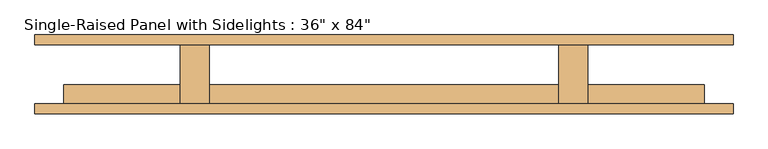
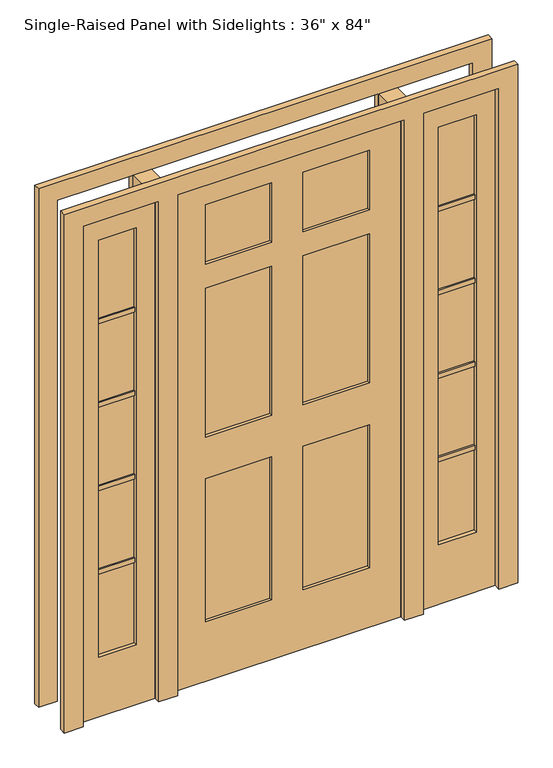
"""IFC4 building model written with IfcOpenShell, lengths in millimetres: door geometry."""

from ifc_helpers import new_model, si_unit, frame, origin, origin_with_axes, place, context, project, spatial, polyline, outline, extrude, source, transform, mapped, element, save


def door_064a4328(model_context):
    return source(origin(), model_context, "Body", "SweptSolid", [
        extrude(outline(polyline([(762.0, -36.5125), (762.0, -68.2625), (609.6, -68.2625), (609.6, -36.5125), (762.0, -36.5125)])), frame((0.0, 0.0, 600.075), z_axis=(0.0, 0.0, 1.0), x_axis=(1.0, 0.0, 0.0)), (0.0, 0.0, 1.0), 19.05),
        extrude(outline(polyline([(762.0, -36.5125), (762.0, -68.2625), (609.6, -68.2625), (609.6, -36.5125), (762.0, -36.5125)])), frame((0.0, 0.0, 955.675), z_axis=(0.0, 0.0, 1.0), x_axis=(1.0, 0.0, 0.0)), (0.0, 0.0, 1.0), 19.05),
        extrude(outline(polyline([(762.0, -36.5125), (762.0, -68.2625), (609.6, -68.2625), (609.6, -36.5125), (762.0, -36.5125)])), frame((0.0, 0.0, 1311.275), z_axis=(0.0, 0.0, 1.0), x_axis=(1.0, 0.0, 0.0)), (0.0, 0.0, 1.0), 19.05),
        extrude(outline(polyline([(762.0, -36.5125), (762.0, -68.2625), (609.6, -68.2625), (609.6, -36.5125), (762.0, -36.5125)])), frame((0.0, 0.0, 1666.875), z_axis=(0.0, 0.0, 1.0), x_axis=(1.0, 0.0, 0.0)), (0.0, 0.0, 1.0), 19.05),
        extrude(outline(polyline([(-609.6, -36.5125), (-609.6, -68.2625), (-762.0, -68.2625), (-762.0, -36.5125), (-609.6, -36.5125)])), frame((0.0, 0.0, 1666.875), z_axis=(0.0, 0.0, 1.0), x_axis=(1.0, 0.0, 0.0)), (0.0, 0.0, 1.0), 19.05),
        extrude(outline(polyline([(-609.6, -36.5125), (-609.6, -68.2625), (-762.0, -68.2625), (-762.0, -36.5125), (-609.6, -36.5125)])), frame((0.0, 0.0, 1311.275), z_axis=(0.0, 0.0, 1.0), x_axis=(1.0, 0.0, 0.0)), (0.0, 0.0, 1.0), 19.05),
        extrude(outline(polyline([(-609.6, -36.5125), (-609.6, -68.2625), (-762.0, -68.2625), (-762.0, -36.5125), (-609.6, -36.5125)])), frame((0.0, 0.0, 955.675), z_axis=(0.0, 0.0, 1.0), x_axis=(1.0, 0.0, 0.0)), (0.0, 0.0, 1.0), 19.05),
        extrude(outline(polyline([(-609.6, -36.5125), (-609.6, -68.2625), (-762.0, -68.2625), (-762.0, -36.5125), (-609.6, -36.5125)])), frame((0.0, 0.0, 600.075), z_axis=(0.0, 0.0, 1.0), x_axis=(1.0, 0.0, 0.0)), (0.0, 0.0, 1.0), 19.05),
        extrude(outline(polyline([(762.0, -42.8625), (762.0, -61.9125), (609.6, -61.9125), (609.6, -42.8625), (762.0, -42.8625)])), frame((0.0, 0.0, 254.0), z_axis=(0.0, 0.0, 1.0), x_axis=(1.0, 0.0, 0.0)), (0.0, 0.0, 1.0), 1778.0),
        extrude(outline(polyline([(-609.6, -42.8625), (-609.6, -61.9125), (-762.0, -61.9125), (-762.0, -42.8625), (-609.6, -42.8625)])), frame((0.0, 0.0, 254.0), z_axis=(0.0, 0.0, 1.0), x_axis=(1.0, 0.0, 0.0)), (0.0, 0.0, 1.0), 1778.0),
        extrude(outline(polyline([(-457.2, 77.7875), (-457.2, -77.7875), (-533.4, -77.7875), (-533.4, 77.7875), (-457.2, 77.7875)])), origin_with_axes(), (0.0, 0.0, 1.0), 2133.6),
        extrude(outline(polyline([(533.4, 77.7875), (533.4, -77.7875), (457.2, -77.7875), (457.2, 77.7875), (533.4, 77.7875)])), origin_with_axes(), (0.0, 0.0, 1.0), 2133.6),
        extrude(outline(polyline([(2133.6, -533.4), (2133.6, -838.2), (0.0, -838.2), (0.0, -533.4), (2133.6, -533.4)]), holes=[polyline([(2032.0, -609.6), (254.0, -609.6), (254.0, -762.0), (2032.0, -762.0), (2032.0, -609.6)])]), frame((0.0, -77.7875, 0.0), z_axis=(0.0, 1.0, 0.0), x_axis=(0.0, 0.0, 1.0)), (0.0, 0.0, 1.0), 50.8),
        extrude(outline(polyline([(0.0, 533.4), (0.0, 838.2), (2133.6, 838.2), (2133.6, 533.4), (0.0, 533.4)]), holes=[polyline([(2032.0, 762.0), (254.0, 762.0), (254.0, 609.6), (2032.0, 609.6), (2032.0, 762.0)])]), frame((0.0, -77.7875, 0.0), z_axis=(0.0, 1.0, 0.0), x_axis=(0.0, 0.0, 1.0)), (0.0, 0.0, 1.0), 50.8),
        extrude(outline(polyline([(0.0, -914.4), (0.0, -838.2), (2133.6, -838.2), (2133.6, -533.4), (0.0, -533.4), (0.0, -457.2), (2133.6, -457.2), (2133.6, 457.2), (0.0, 457.2), (0.0, 533.4), (2133.6, 533.4), (2133.6, 838.2), (0.0, 838.2), (0.0, 914.4), (2209.8, 914.4), (2209.8, -914.4), (0.0, -914.4)])), frame((0.0, 77.7875, 0.0), z_axis=(0.0, 1.0, 0.0), x_axis=(0.0, 0.0, 1.0)), (0.0, 0.0, 1.0), 25.4),
        extrude(outline(polyline([(0.0, 914.4), (2209.8, 914.4), (2209.8, -914.4), (0.0, -914.4), (0.0, -838.2), (2133.6, -838.2), (2133.6, -533.4), (0.0, -533.4), (0.0, -457.2), (2133.6, -457.2), (2133.6, 457.2), (0.0, 457.2), (0.0, 533.4), (2133.6, 533.4), (2133.6, 838.2), (0.0, 838.2), (0.0, 914.4)])), frame((0.0, -103.1875, 0.0), z_axis=(0.0, 1.0, 0.0), x_axis=(0.0, 0.0, 1.0)), (0.0, 0.0, 1.0), 25.4),
        extrude(outline(polyline([(-63.5, -39.6875), (-63.5, -65.0875), (-330.2, -65.0875), (-330.2, -39.6875), (-63.5, -39.6875)])), frame((0.0, 0.0, 1778.0), z_axis=(0.0, 0.0, 1.0), x_axis=(1.0, 0.0, 0.0)), (0.0, 0.0, 1.0), 254.0),
        extrude(outline(polyline([(330.2, -39.6875), (330.2, -65.0875), (63.5, -65.0875), (63.5, -39.6875), (330.2, -39.6875)])), frame((0.0, 0.0, 1778.0), z_axis=(0.0, 0.0, 1.0), x_axis=(1.0, 0.0, 0.0)), (0.0, 0.0, 1.0), 254.0),
        extrude(outline(polyline([(-63.5, -39.6875), (-63.5, -65.0875), (-330.2, -65.0875), (-330.2, -39.6875), (-63.5, -39.6875)])), frame((0.0, 0.0, 1041.4), z_axis=(0.0, 0.0, 1.0), x_axis=(1.0, 0.0, 0.0)), (0.0, 0.0, 1.0), 635.0),
        extrude(outline(polyline([(330.2, -39.6875), (330.2, -65.0875), (63.5, -65.0875), (63.5, -39.6875), (330.2, -39.6875)])), frame((0.0, 0.0, 1041.4), z_axis=(0.0, 0.0, 1.0), x_axis=(1.0, 0.0, 0.0)), (0.0, 0.0, 1.0), 635.0),
        extrude(outline(polyline([(-63.5, -39.6875), (-63.5, -65.0875), (-330.2, -65.0875), (-330.2, -39.6875), (-63.5, -39.6875)])), frame((0.0, 0.0, 254.0), z_axis=(0.0, 0.0, 1.0), x_axis=(1.0, 0.0, 0.0)), (0.0, 0.0, 1.0), 609.6),
        extrude(outline(polyline([(330.2, -39.6875), (330.2, -65.0875), (63.5, -65.0875), (63.5, -39.6875), (330.2, -39.6875)])), frame((0.0, 0.0, 254.0), z_axis=(0.0, 0.0, 1.0), x_axis=(1.0, 0.0, 0.0)), (0.0, 0.0, 1.0), 609.6),
        extrude(outline(polyline([(2133.6, 457.2), (2133.6, -457.2), (0.0, -457.2), (0.0, 457.2), (2133.6, 457.2)]), holes=[polyline([(2032.0, -63.5), (1778.0, -63.5), (1778.0, -330.2), (2032.0, -330.2), (2032.0, -63.5)]), polyline([(2032.0, 330.2), (1778.0, 330.2), (1778.0, 63.5), (2032.0, 63.5), (2032.0, 330.2)]), polyline([(1676.4, -63.5), (1041.4, -63.5), (1041.4, -330.2), (1676.4, -330.2), (1676.4, -63.5)]), polyline([(1676.4, 330.2), (1041.4, 330.2), (1041.4, 63.5), (1676.4, 63.5), (1676.4, 330.2)]), polyline([(863.6, -63.5), (254.0, -63.5), (254.0, -330.2), (863.6, -330.2), (863.6, -63.5)]), polyline([(863.6, 330.2), (254.0, 330.2), (254.0, 63.5), (863.6, 63.5), (863.6, 330.2)])]), frame((0.0, -77.7875, 0.0), z_axis=(0.0, 1.0, 0.0), x_axis=(0.0, 0.0, 1.0)), (0.0, 0.0, 1.0), 50.8),
    ])


if __name__ == "__main__":
    model = new_model("IFC4")
    model_context = context("Model", 3, world=origin())
    ifc_project = project(units=[si_unit("LENGTHUNIT", "METRE", prefix="MILLI")], contexts=[model_context])
    site = spatial("IfcSite", under=ifc_project)
    building = spatial("IfcBuilding", under=site)
    placement = place(None, origin())
    door_shape = door_064a4328(model_context)
    element("IfcDoor", 1, ObjectType="Single-Raised Panel with Sidelights : 36\" x 84\"", at=placement, inside=building, context=model_context, shape_type="MappedRepresentation", body=[
        mapped(door_shape, transform((0.0, 0.0, 0.0), x_axis=(1.0, 0.0, 0.0), y_axis=(0.0, 1.0, 0.0), z_axis=(0.0, 0.0, 1.0))),
    ])
    save(model, "model.ifc")
